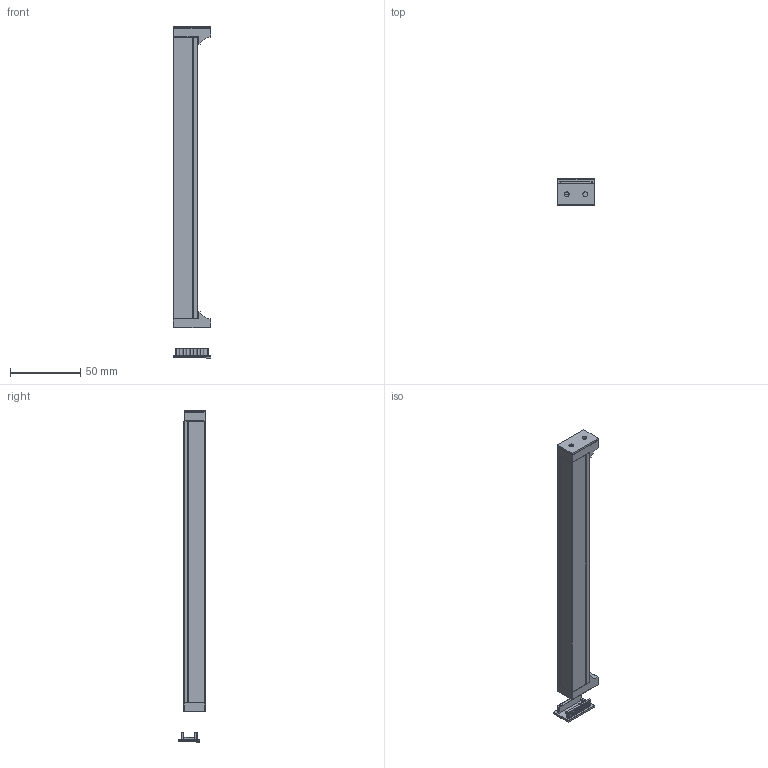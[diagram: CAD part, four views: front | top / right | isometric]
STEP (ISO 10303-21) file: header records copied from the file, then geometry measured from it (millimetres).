
FILE_DESCRIPTION (( 'STEP AP214' ), '1' );
FILE_NAME ('BOX Completo.STEP', '2022-02-17T14:11:29', ( '' ), ( '' ), 'SwSTEP 2.0', 'SolidWorks 2021', '' );
FILE_SCHEMA (( 'AUTOMOTIVE_DESIGN' ));
Length unit declared in the file: millimetre
Products named in the file (1): BOX Completo
Bounding box: 26.5 x 18.89 x 236 mm (x, y, z)
Volume: 24804.7 mm3; surface area: 39837.5 mm2
Topology: 6 solids, 6 shells, 844 faces, 2438 edges, 1582 vertices
Faces by surface type: cylinder 453, plane 375, sphere 16
Entity records: 37129 total; most frequent: CARTESIAN_POINT 4987, DIRECTION 4894, ORIENTED_EDGE 4844, EDGE_CURVE 2422, AXIS2_PLACEMENT_3D 1673, VERTEX_POINT 1582, LINE 1548, VECTOR 1548
